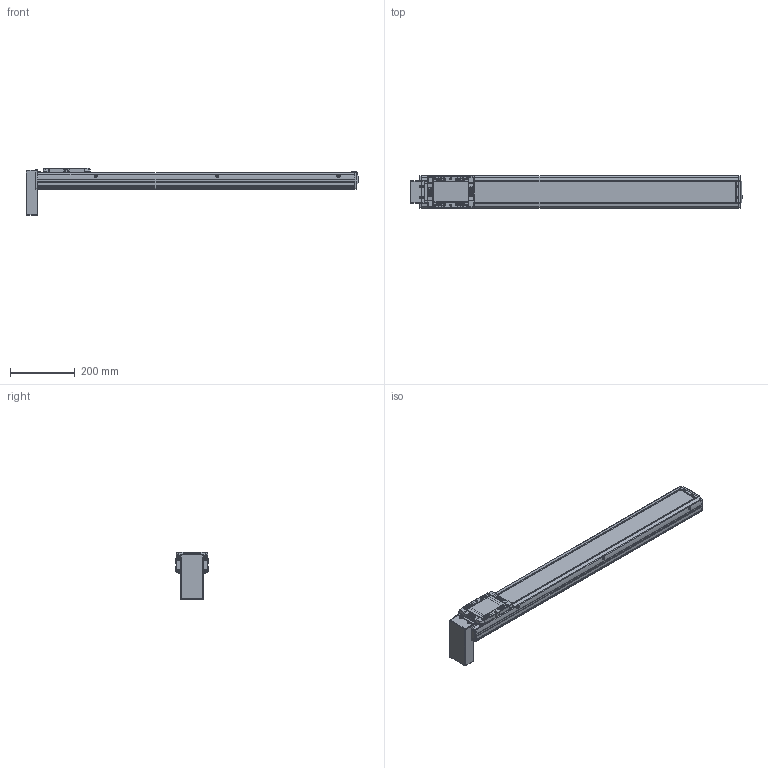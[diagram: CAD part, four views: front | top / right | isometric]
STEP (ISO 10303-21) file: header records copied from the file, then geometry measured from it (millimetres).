
FILE_DESCRIPTION(('STEP AP214'),'1');
FILE_NAME('Z:/Web/3D/SAN100/SAN100 양산용 (STEP)/SAN100ㅁㅁ-800PB.stp','2013-04-30T02:02:46',(' '),(' '),'Spatial InterOp 3D',' ',' ');
FILE_SCHEMA(('automotive_design'));
Length unit declared in the file: millimetre
Products named in the file (39): SUS COVER; SFX-SAN100; RRCV-SAN100; 스크루 : Round - M4.0 x 10.0; M3.0 x 6.0; 스크루 : Round - M3.0 x 6.0; FRBL-SAN100; SLBL-SAN100; SLCV-SAN100; 스크루 : Countersunk - M3.0 x 6.0; BASE; 스크루 : Round - M5.0 x 6.0; BTCV-SAN100; FRCV-SAN100
Bounding box: 1026.5 x 100 x 148.36 mm (x, y, z)
Volume: 2984520.9 mm3; surface area: 684834.8 mm2
Topology: 39 solids, 44 shells, 2144 faces, 5564 edges, 3575 vertices
Faces by surface type: plane 1043, cylinder 797, cone 206, sphere 56, torus 30, bspline 12
Entity records: 84284 total; most frequent: CARTESIAN_POINT 12632, DIRECTION 11821, ORIENTED_EDGE 10932, EDGE_CURVE 5466, AXIS2_PLACEMENT_3D 4297, VERTEX_POINT 3575, LINE 3227, VECTOR 3227
